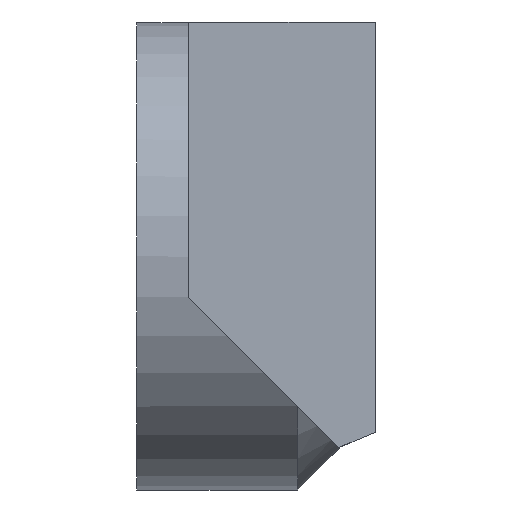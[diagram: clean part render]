
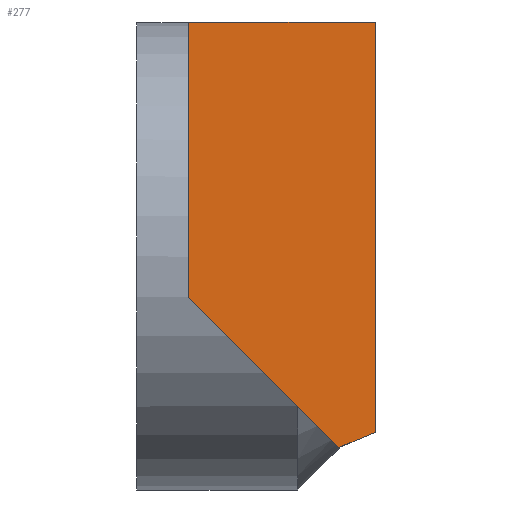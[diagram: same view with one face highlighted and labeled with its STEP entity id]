
A CAD part, front view. The second image highlights one B-rep face of the part: STEP entity #277.
In plain terms, the highlighted planar face has unit normal (0, -1, 0).
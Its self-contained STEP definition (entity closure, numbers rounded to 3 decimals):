
#118=CARTESIAN_POINT('',(15.95,735.4,-29.9));
#119=VERTEX_POINT('',#118);
#152=CARTESIAN_POINT('',(18.843,735.4,-32.793));
#153=VERTEX_POINT('',#152);
#160=CARTESIAN_POINT('',(15.95,735.4,-29.9));
#161=DIRECTION('',(0.707,0.,-0.707));
#162=VECTOR('',#161,4.091);
#163=LINE('',#160,#162);
#164=EDGE_CURVE('',#119,#153,#163,.T.);
#222=CARTESIAN_POINT('',(15.95,735.4,-24.6));
#223=VERTEX_POINT('',#222);
#230=CARTESIAN_POINT('',(19.55,735.4,-24.6));
#231=VERTEX_POINT('',#230);
#232=CARTESIAN_POINT('',(19.55,735.4,-24.6));
#233=DIRECTION('',(-1.,-0.,0.));
#234=VECTOR('',#233,3.6);
#235=LINE('',#232,#234);
#236=EDGE_CURVE('',#231,#223,#235,.T.);
#248=CARTESIAN_POINT('',(19.55,735.4,-29.15));
#249=DIRECTION('',(0.,1.,0.));
#250=DIRECTION('',(0.,0.,1.));
#251=AXIS2_PLACEMENT_3D('',#248,#249,#250);
#252=PLANE('',#251);
#253=ORIENTED_EDGE('',*,*,#164,.T.);
#254=CARTESIAN_POINT('',(19.55,735.4,-32.5));
#255=VERTEX_POINT('',#254);
#256=CARTESIAN_POINT('',(18.843,735.4,-32.793));
#257=DIRECTION('',(0.924,0.,0.383));
#258=VECTOR('',#257,0.765);
#259=LINE('',#256,#258);
#260=EDGE_CURVE('',#153,#255,#259,.T.);
#261=ORIENTED_EDGE('',*,*,#260,.T.);
#262=CARTESIAN_POINT('',(19.55,735.4,-24.6));
#263=DIRECTION('',(-0.,-0.,-1.));
#264=VECTOR('',#263,7.9);
#265=LINE('',#262,#264);
#266=EDGE_CURVE('',#231,#255,#265,.T.);
#267=ORIENTED_EDGE('',*,*,#266,.F.);
#268=ORIENTED_EDGE('',*,*,#236,.T.);
#269=CARTESIAN_POINT('',(15.95,735.4,-24.6));
#270=DIRECTION('',(-0.,-0.,-1.));
#271=VECTOR('',#270,5.3);
#272=LINE('',#269,#271);
#273=EDGE_CURVE('',#223,#119,#272,.T.);
#274=ORIENTED_EDGE('',*,*,#273,.T.);
#275=EDGE_LOOP('',(#253,#261,#267,#268,#274));
#276=FACE_BOUND('',#275,.T.);
#277=ADVANCED_FACE('',(#276),#252,.F.);
